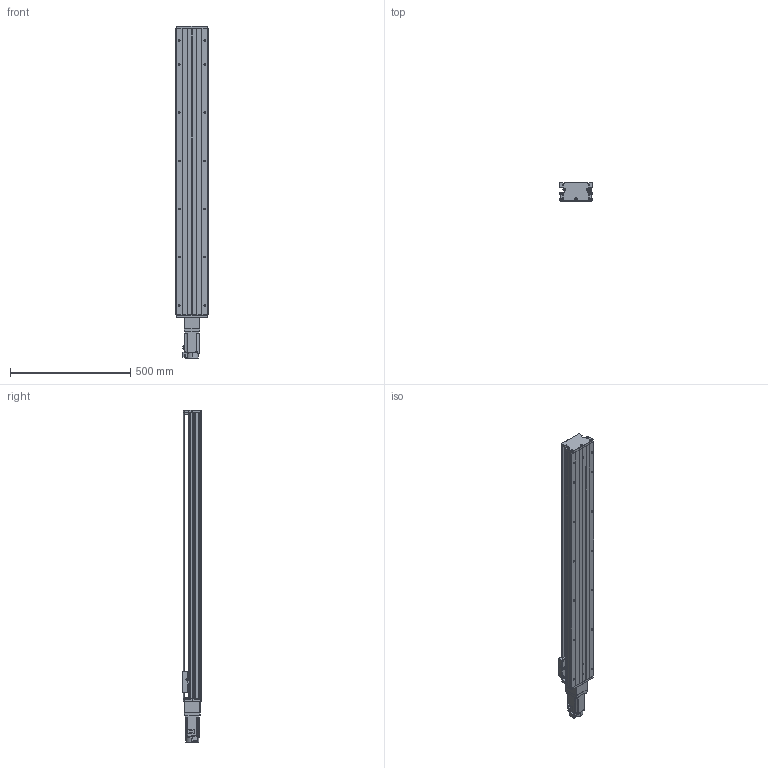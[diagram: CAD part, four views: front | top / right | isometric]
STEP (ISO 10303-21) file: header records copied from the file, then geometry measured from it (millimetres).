
FILE_DESCRIPTION (( 'STEP AP203' ), '1' );
FILE_NAME ('KTH130-1050-BC-M40-C4.step', '2023-06-30T03:52:57', ( '微软用户' ), ( '微软中国' ), 'SwSTEP 2.0', 'SolidWorks 2020', '' );
FILE_SCHEMA (( 'CONFIG_CONTROL_DESIGN' ));
Length unit declared in the file: millimetre
Products named in the file (19): GBT 70.2-M3¡Á5_M3¡Á6; GBT 70.3-M3℅8; GTH14-001_1050; CTHA60-017; CTHA86-006-1_M40; KTH130-002_KTH130-002; EE_SX911P_R; CTHA86-013; KTH130-004; CTHA60-016; CTHA86-027-1; KTH130-005; GBT 70.1-M3℅5; HG-KN43J-S100; GB1155-6X6; GBT77-2000 M3×3; KTH130-1050-BC-M40-C4; GBT70.1 M5℅16; す晦芛蹟隊 M3℅5
Assembly tree (52 placements, depth 2):
  KTH130-1050-BC-M40-C4
    GTH14-001_1050
    KTH130-002_KTH130-002
    KTH130-004
    KTH130-005
    GB1155-6X6  x2
    GBT70.1 M5℅16  x10
    GBT 70.2-M3¡Á5_M3¡Á6  x4
    CTHA60-017  x3
    EE_SX911P_R  x3
    CTHA60-016  x2
    GBT 70.1-M3℅5  x6
    GBT77-2000 M3×3  x6
    す晦芛蹟隊 M3℅5  x2
    GBT 70.3-M3℅8  x6
    CTHA86-006-1_M40
    CTHA86-013
    CTHA86-027-1
    HG-KN43J-S100
Bounding box: 135 x 78 x 1378.7 mm (x, y, z)
Volume: 7024002.9 mm3; surface area: 1055136.1 mm2
Topology: 55 solids, 55 shells, 2202 faces, 5326 edges, 3326 vertices
Faces by surface type: plane 1198, cylinder 616, cone 280, torus 96, sphere 12
Entity records: 40498 total; most frequent: CARTESIAN_POINT 8576, DIRECTION 6045, ORIENTED_EDGE 5936, EDGE_CURVE 2968, AXIS2_PLACEMENT_3D 2069, VECTOR 1907, LINE 1907, VERTEX_POINT 1898
